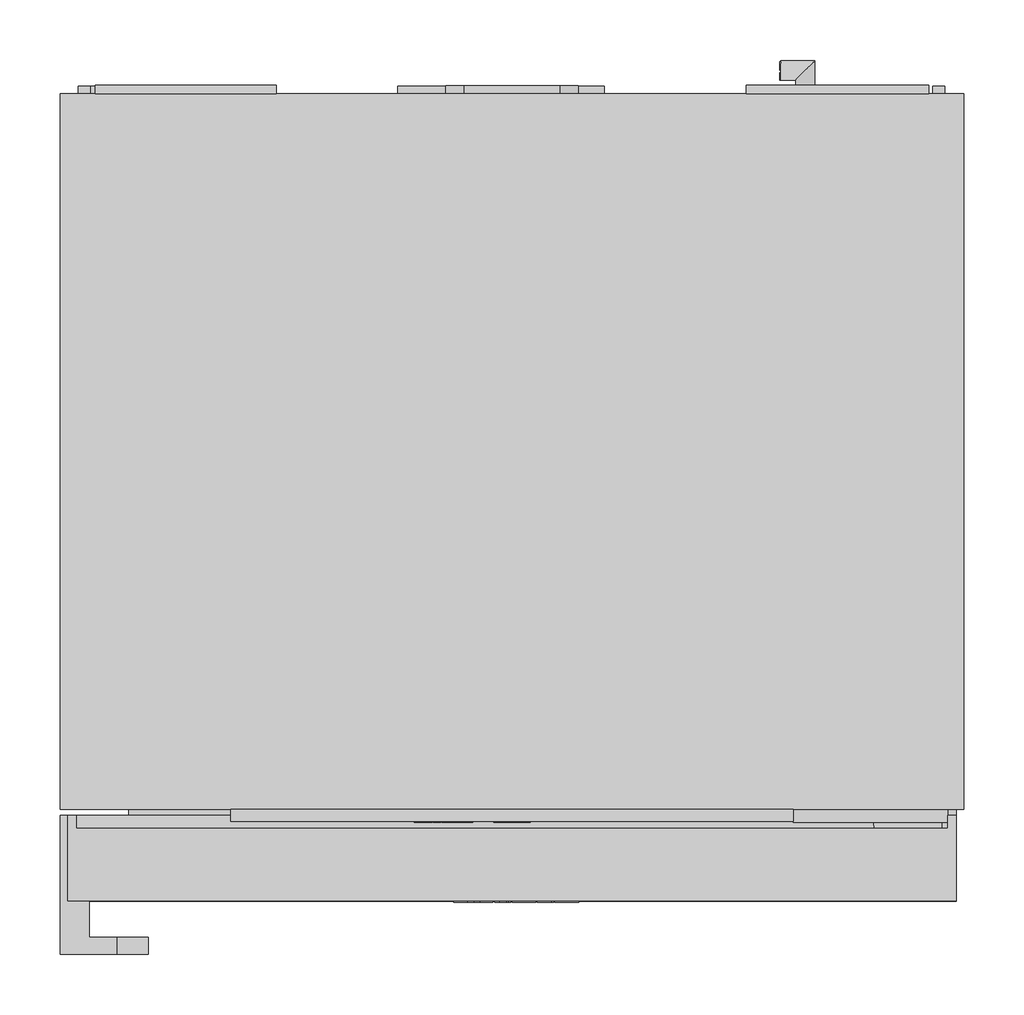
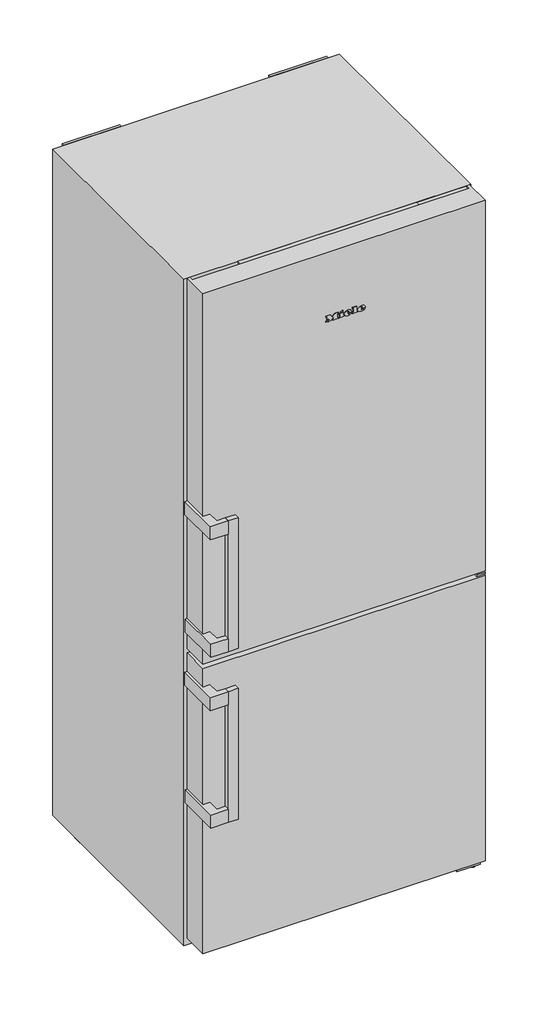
# Not in any storey: 1 proxy.
"""IFC4 building model written with IfcOpenShell, lengths in millimetres."""

from ifc_helpers import new_model, si_unit, origin, place, context, project, spatial, transform, mapped, element, save
from components import specialty_equipment_20b82cf1

model = new_model("IFC4")

# Units and contexts
model_context = context("Model", 3, world=origin())
ifc_project = project(units=[si_unit("LENGTHUNIT", "METRE", prefix="MILLI")], contexts=[model_context])

# Site, building
site = spatial("IfcSite", under=ifc_project)
building = spatial("IfcBuilding", under=site)

# Proxy
placement = place(None, origin())
specialty_equipment_shape = specialty_equipment_20b82cf1(model_context)
element("IfcBuildingElementProxy", 1, Name="11954020_AUS_KFN4776ED_EDTCS : 38477650_AUS_11954020_KFN4776ED_EDTCS", ObjectType="11954020_AUS_KFN4776ED_EDTCS : 38477650_AUS_11954020_KFN4776ED_EDTCS", at=placement, inside=building, context=model_context, shape_type="MappedRepresentation", body=[
    mapped(specialty_equipment_shape, transform((0.0, 0.0, 0.0), x_axis=(1.0, 0.0, 0.0), y_axis=(0.0, 1.0, 0.0), z_axis=(0.0, 0.0, 1.0))),
])

save(model, "model.ifc")
